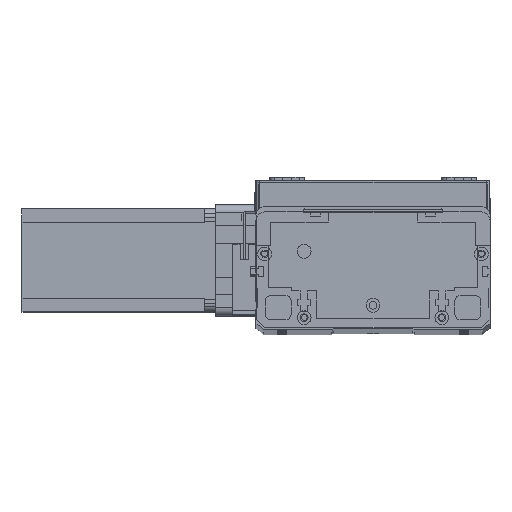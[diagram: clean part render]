
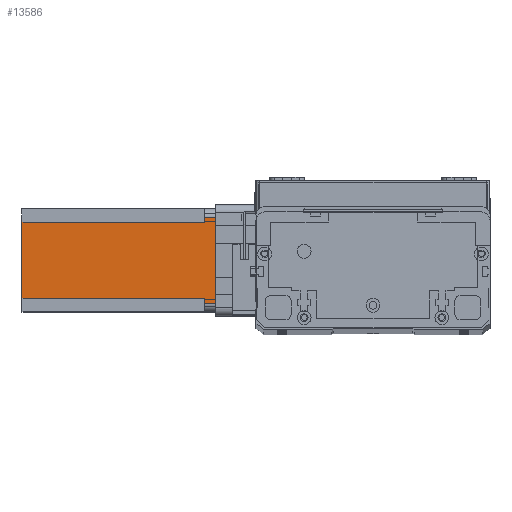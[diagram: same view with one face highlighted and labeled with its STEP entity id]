
A CAD part, top view. The second image highlights one B-rep face of the part: STEP entity #13586.
In plain terms, the highlighted planar face has unit normal (0, 0, 1) as drawn and (0, -1, 0) by its records, which use the part's own axes.
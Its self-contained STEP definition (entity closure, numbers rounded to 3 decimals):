
#171 = DIRECTION ( 'NONE',  ( 0., 0., -1. ) ) ;
#189 = CARTESIAN_POINT ( 'NONE',  ( 8., 0., -112.5 ) ) ;
#759 = CARTESIAN_POINT ( 'NONE',  ( 5., 0., -6.5 ) ) ;
#1017 = VECTOR ( 'NONE', #23564, 1000. ) ;
#2986 = CARTESIAN_POINT ( 'NONE',  ( 8., 0., -6.5 ) ) ;
#3988 = ORIENTED_EDGE ( 'NONE', *, *, #17011, .T. ) ;
#4774 = EDGE_LOOP ( 'NONE', ( #17297, #18502, #6458, #25809, #18240, #18167, #3988, #7930 ) ) ;
#4941 = CARTESIAN_POINT ( 'NONE',  ( 0., 0., 0. ) ) ;
#4957 = AXIS2_PLACEMENT_3D ( 'NONE', #19428, #19516, #7080 ) ;
#5249 = VERTEX_POINT ( 'NONE', #14981 ) ;
#5973 = CARTESIAN_POINT ( 'NONE',  ( 52., 0., -6.5 ) ) ;
#6154 = CARTESIAN_POINT ( 'NONE',  ( 5., 0., 0. ) ) ;
#6458 = ORIENTED_EDGE ( 'NONE', *, *, #9222, .F. ) ;
#6483 = VECTOR ( 'NONE', #7009, 1000. ) ;
#6975 = DIRECTION ( 'NONE',  ( 1., 0., 0. ) ) ;
#7009 = DIRECTION ( 'NONE',  ( 1., 0., 0. ) ) ;
#7080 = DIRECTION ( 'NONE',  ( 0., 0., -1. ) ) ;
#7930 = ORIENTED_EDGE ( 'NONE', *, *, #17323, .F. ) ;
#8191 = CARTESIAN_POINT ( 'NONE',  ( 8., 0., -112.5 ) ) ;
#8707 = VERTEX_POINT ( 'NONE', #6154 ) ;
#9222 = EDGE_CURVE ( 'NONE', #8707, #15062, #17586, .T. ) ;
#11453 = VECTOR ( 'NONE', #20491, 1000. ) ;
#12625 = CARTESIAN_POINT ( 'NONE',  ( 5., 0., -112.5 ) ) ;
#12870 = VERTEX_POINT ( 'NONE', #14295 ) ;
#12946 = VECTOR ( 'NONE', #26387, 1000. ) ;
#13348 = LINE ( 'NONE', #12625, #13992 ) ;
#13586 = ADVANCED_FACE ( 'NONE', ( #22797 ), #23504, .T. ) ;
#13609 = LINE ( 'NONE', #24496, #12946 ) ;
#13992 = VECTOR ( 'NONE', #171, 1000. ) ;
#13999 = CARTESIAN_POINT ( 'NONE',  ( 8., 0., -6.5 ) ) ;
#14295 = CARTESIAN_POINT ( 'NONE',  ( 55., 0., -6.5 ) ) ;
#14981 = CARTESIAN_POINT ( 'NONE',  ( 52., 0., -6.5 ) ) ;
#15062 = VERTEX_POINT ( 'NONE', #16652 ) ;
#15547 = EDGE_CURVE ( 'NONE', #5249, #12870, #16271, .T. ) ;
#15571 = VECTOR ( 'NONE', #22815, 1000. ) ;
#15936 = EDGE_CURVE ( 'NONE', #12870, #15062, #18211, .T. ) ;
#16270 = EDGE_CURVE ( 'NONE', #8707, #17488, #13348, .T. ) ;
#16271 = LINE ( 'NONE', #5973, #11453 ) ;
#16492 = EDGE_CURVE ( 'NONE', #17699, #17488, #23886, .T. ) ;
#16652 = CARTESIAN_POINT ( 'NONE',  ( 55., 0., 0. ) ) ;
#16846 = EDGE_CURVE ( 'NONE', #24498, #17699, #21026, .T. ) ;
#17011 = EDGE_CURVE ( 'NONE', #24498, #23039, #21990, .T. ) ;
#17297 = ORIENTED_EDGE ( 'NONE', *, *, #15547, .T. ) ;
#17323 = EDGE_CURVE ( 'NONE', #5249, #23039, #13609, .T. ) ;
#17488 = VERTEX_POINT ( 'NONE', #759 ) ;
#17586 = LINE ( 'NONE', #4941, #6483 ) ;
#17699 = VERTEX_POINT ( 'NONE', #13999 ) ;
#18167 = ORIENTED_EDGE ( 'NONE', *, *, #16846, .F. ) ;
#18211 = LINE ( 'NONE', #21537, #1017 ) ;
#18240 = ORIENTED_EDGE ( 'NONE', *, *, #16492, .F. ) ;
#18489 = VECTOR ( 'NONE', #21602, 1000. ) ;
#18502 = ORIENTED_EDGE ( 'NONE', *, *, #15936, .T. ) ;
#19428 = CARTESIAN_POINT ( 'NONE',  ( 0., 0., -112.5 ) ) ;
#19516 = DIRECTION ( 'NONE',  ( 0., -1., 0. ) ) ;
#20491 = DIRECTION ( 'NONE',  ( 1., 0., 0. ) ) ;
#20798 = CARTESIAN_POINT ( 'NONE',  ( 52., 0., -112.5 ) ) ;
#21026 = LINE ( 'NONE', #8191, #15571 ) ;
#21328 = VECTOR ( 'NONE', #6975, 1000. ) ;
#21473 = CARTESIAN_POINT ( 'NONE',  ( 0., 0., -112.5 ) ) ;
#21537 = CARTESIAN_POINT ( 'NONE',  ( 55., 0., -112.5 ) ) ;
#21602 = DIRECTION ( 'NONE',  ( -1., 0., 0. ) ) ;
#21990 = LINE ( 'NONE', #21473, #21328 ) ;
#22797 = FACE_OUTER_BOUND ( 'NONE', #4774, .T. ) ;
#22815 = DIRECTION ( 'NONE',  ( 0., 0., 1. ) ) ;
#23039 = VERTEX_POINT ( 'NONE', #20798 ) ;
#23504 = PLANE ( 'NONE',  #4957 ) ;
#23564 = DIRECTION ( 'NONE',  ( 0., 0., 1. ) ) ;
#23886 = LINE ( 'NONE', #2986, #18489 ) ;
#24496 = CARTESIAN_POINT ( 'NONE',  ( 52., 0., -112.5 ) ) ;
#24498 = VERTEX_POINT ( 'NONE', #189 ) ;
#25809 = ORIENTED_EDGE ( 'NONE', *, *, #16270, .T. ) ;
#26387 = DIRECTION ( 'NONE',  ( 0., 0., -1. ) ) ;
